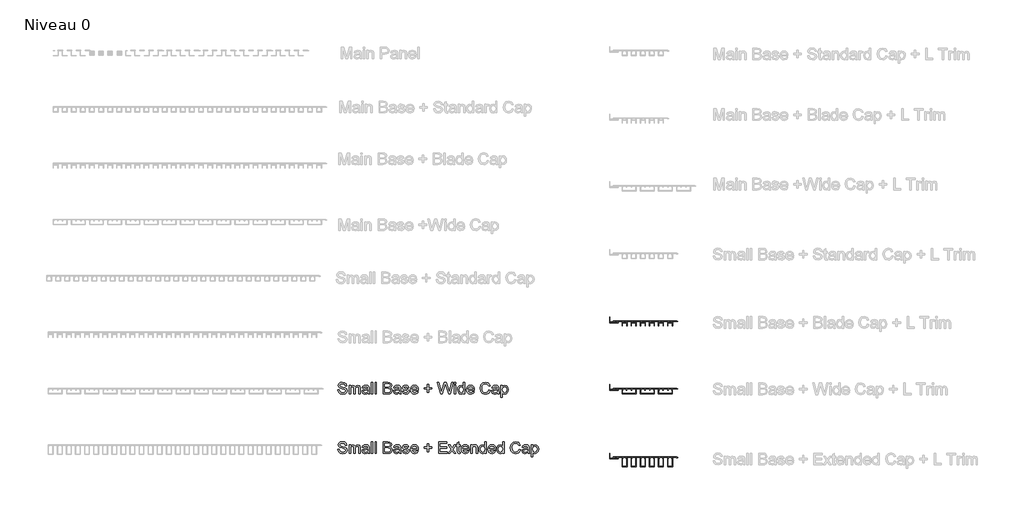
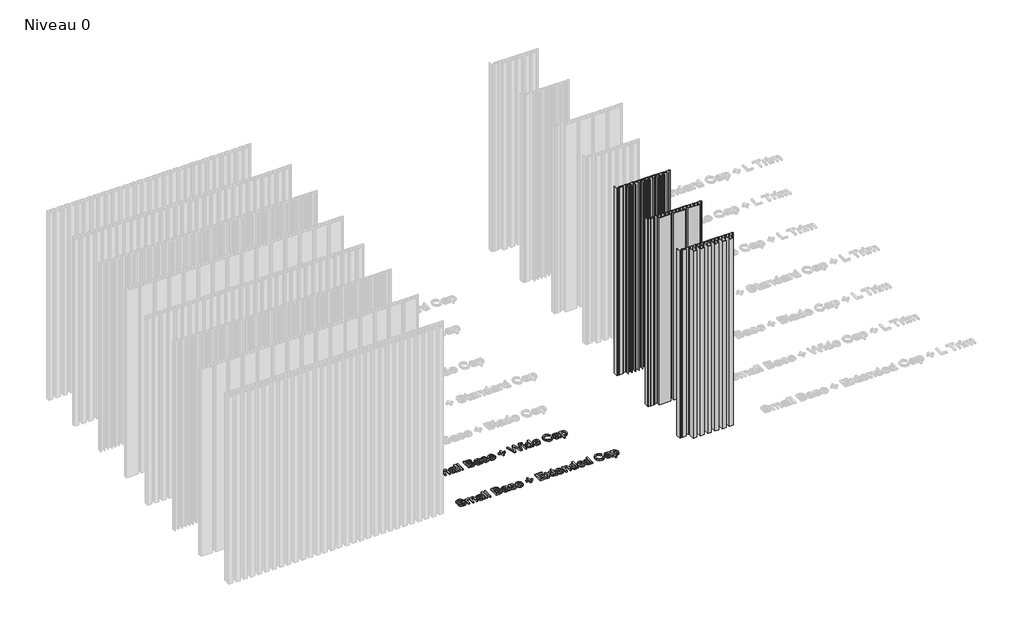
# One storey, part 5 of 25: 5 proxies.
"""IFC4 building model written with IfcOpenShell, lengths in millimetres."""

from ifc_helpers import new_model, si_unit, origin, origin_with_axes, place, context, project, spatial, polyline, outline, extrude, transform, mapped, element, save
from components import generic_models_1b919621, generic_models_7a0f7bea, generic_models_a2dd4bea

model = new_model("IFC4")

# Units and contexts
model_context = context("Model", 3, world=origin())
ifc_project = project(units=[si_unit("LENGTHUNIT", "METRE", prefix="MILLI")], contexts=[model_context])

# Site, building, storey
site = spatial("IfcSite", under=ifc_project)
building = spatial("IfcBuilding", under=site)
storey = spatial("IfcBuildingStorey", under=building, Name="Niveau 0", Elevation=0.0)

# Proxies
placement = place(None, origin())
generic_models_shape = generic_models_1b919621(model_context)
element("IfcBuildingElementProxy", 1, Name="A_GEN_LINE_Small Base_Extended Cap_LTrim : A_GEN_LINE_Small Base_Extended Cap_LTrim", ObjectType="A_GEN_LINE_Small Base_Extended Cap_LTrim : A_GEN_LINE_Small Base_Extended Cap_LTrim", at=placement, inside=storey, context=model_context, shape_type="MappedRepresentation", body=[
    mapped(generic_models_shape, transform((-23.2337478, 2105.9739218, 0.0), x_axis=(1.0, 0.0, 0.0), y_axis=(0.0, 1.0, 0.0), z_axis=(0.0, 0.0, 1.0))),
])
generic_models_2_shape = generic_models_7a0f7bea(model_context)
element("IfcBuildingElementProxy", 2, Name="A_GEN_LINE_Small Base_Blade Cap_LTrim : A_GEN_LINE_Small Base_Blade Cap_LTrim", ObjectType="A_GEN_LINE_Small Base_Blade Cap_LTrim : A_GEN_LINE_Small Base_Blade Cap_LTrim", at=placement, inside=storey, context=model_context, shape_type="MappedRepresentation", body=[
    mapped(generic_models_2_shape, transform((-23.2337478, 2931.5777825, 0.0), x_axis=(1.0, 0.0, 0.0), y_axis=(0.0, 1.0, 0.0), z_axis=(0.0, 0.0, 1.0))),
])
generic_models_3_shape = generic_models_a2dd4bea(model_context)
element("IfcBuildingElementProxy", 3, Name="A_GEN_LINE_Small Base_Wide Cap_LTrim : A_GEN_LINE_Small Base_Wide Cap_LTrim", ObjectType="A_GEN_LINE_Small Base_Wide Cap_LTrim : A_GEN_LINE_Small Base_Wide Cap_LTrim", at=placement, inside=storey, context=model_context, shape_type="MappedRepresentation", body=[
    mapped(generic_models_3_shape, transform((-23.2337478, 2521.8258521, 0.0), x_axis=(1.0, 0.0, 0.0), y_axis=(0.0, 1.0, 0.0), z_axis=(0.0, 0.0, 1.0))),
])
element("IfcBuildingElementProxy", 4, Name="70mm Arial", ObjectType="70mm Arial", at=placement, inside=storey, context=model_context, shape_type="SweptSolid", body=[
    extrude(outline(polyline([(-1688.9882989, 2512.3459427), (-1680.1983718, 2512.3459427), (-1677.3656804, 2503.5474317), (-1670.4470464, 2497.9850559), (-1659.9060009, 2495.8648293), (-1650.7212138, 2497.4700211), (-1644.7897297, 2501.8821525), (-1642.8411814, 2507.7793009), (-1644.3004467, 2513.2644214), (-1650.2748503, 2517.2559411), (-1663.0734649, 2520.6122512), (-1676.8506456, 2524.9471273), (-1684.327234, 2531.4880692), (-1686.7908171, 2540.2264929), (-1683.7435279, 2550.1752483), (-1674.8420099, 2557.1968893), (-1661.8116297, 2559.5918011), (-1647.9056902, 2557.0852984), (-1638.635064, 2549.7203009), (-1635.1499952, 2538.7157241), (-1643.9399223, 2538.7157241), (-1648.918592, 2547.7460009), (-1661.4682731, 2550.801874), (-1674.0522899, 2547.7803365), (-1678.00089, 2540.4840103), (-1675.2025343, 2534.3894319), (-1660.8502314, 2529.4794335), (-1645.2961806, 2525.0673021), (-1636.7895226, 2517.9426542), (-1634.0512543, 2508.0024826), (-1637.2015505, 2497.4871889), (-1646.2661628, 2489.8131705), (-1659.5626444, 2487.0749022), (-1675.2626217, 2490.0277684), (-1685.1942093, 2498.9207025), (-1688.9882989, 2512.3459427)])), origin_with_axes(), (0.0, 0.0, 1.0), 10.0),
    extrude(outline(polyline([(-1621.9651045, 2488.1736431), (-1621.9651045, 2539.814465), (-1613.1751774, 2539.814465), (-1613.1751774, 2531.3163909), (-1607.1321024, 2538.2779446), (-1598.5310214, 2540.9132059), (-1589.7239264, 2538.2264411), (-1584.8825994, 2530.6983492), (-1578.0240527, 2538.3594917), (-1569.3628843, 2540.9132059), (-1557.8690245, 2536.6641689), (-1553.8431692, 2523.5737012), (-1553.8431692, 2488.1736431), (-1562.6330963, 2488.1736431), (-1562.6330963, 2519.7967794), (-1563.4485681, 2527.1360252), (-1566.4014342, 2530.7498527), (-1571.4230234, 2532.1232788), (-1580.0670241, 2528.6038744), (-1583.5091733, 2517.3246124), (-1583.5091733, 2488.1736431), (-1592.2991004, 2488.1736431), (-1592.2991004, 2520.7753455), (-1594.3334878, 2529.2905874), (-1601.0031884, 2532.1232788), (-1607.5097946, 2530.2348179), (-1611.8360869, 2524.7067778), (-1613.1751774, 2514.2172358), (-1613.1751774, 2488.1736431), (-1621.9651045, 2488.1736431)])), origin_with_axes(), (0.0, 0.0, 1.0), 10.0),
    extrude(outline(polyline([(-1507.6960517, 2494.7660885), (-1516.2198775, 2488.8088527), (-1525.6364303, 2487.0749022), (-1538.4007093, 2491.246684), (-1542.8557602, 2501.9079043), (-1541.1733133, 2508.860874), (-1536.7525979, 2513.9082149), (-1530.5979322, 2516.7924098), (-1522.9925851, 2518.1143324), (-1507.7475552, 2521.1358699), (-1507.6960517, 2523.0930021), (-1510.1167152, 2529.5824405), (-1519.833705, 2532.1232788), (-1528.7266391, 2530.4322479), (-1532.9670922, 2524.4320925), (-1541.7570194, 2525.5308334), (-1537.9543458, 2534.1147467), (-1530.2974952, 2539.1449198), (-1518.7006284, 2540.9132059), (-1508.0479921, 2539.3509337), (-1502.030669, 2535.4280854), (-1499.3353202, 2529.4622657), (-1498.9061246, 2521.7710794), (-1498.9061246, 2510.835174), (-1498.4597611, 2495.5643924), (-1496.7086428, 2488.1736431), (-1505.4985699, 2488.1736431), (-1507.6960517, 2494.7660885)]), holes=[polyline([(-1507.6960517, 2512.3459427), (-1521.8766763, 2509.650594), (-1529.4391039, 2508.2256644), (-1532.8640853, 2505.9080078), (-1534.0658331, 2502.525946), (-1531.4477396, 2497.7704581), (-1523.7651372, 2495.8648293), (-1514.8722031, 2497.9678881), (-1509.1381491, 2503.0581486), (-1507.7475552, 2509.8566079), (-1507.6960517, 2512.3459427)])]), origin_with_axes(), (0.0, 0.0, 1.0), 10.0),
    extrude(outline(polyline([(-1486.8199747, 2488.1736431), (-1486.8199747, 2558.4930602), (-1478.0300476, 2558.4930602), (-1478.0300476, 2488.1736431), (-1486.8199747, 2488.1736431)])), origin_with_axes(), (0.0, 0.0, 1.0), 10.0),
    extrude(outline(polyline([(-1464.8451569, 2488.1736431), (-1464.8451569, 2558.4930602), (-1456.0552298, 2558.4930602), (-1456.0552298, 2488.1736431), (-1464.8451569, 2488.1736431)])), origin_with_axes(), (0.0, 0.0, 1.0), 10.0),
    extrude(outline(polyline([(-1414.3030759, 2488.1736431), (-1414.3030759, 2558.4930602), (-1387.4697631, 2558.4930602), (-1374.327792, 2556.4243371), (-1366.5679344, 2550.0636574), (-1363.7609948, 2541.0677164), (-1366.1215709, 2532.8529114), (-1373.2548028, 2526.6295743), (-1364.5936344, 2520.0714646), (-1361.563513, 2509.1355592), (-1363.6322361, 2499.6846707), (-1368.7568323, 2492.9548828), (-1376.405099, 2489.3839749), (-1387.675777, 2488.1736431), (-1414.3030759, 2488.1736431)]), holes=[polyline([(-1405.5131487, 2496.9635702), (-1387.486931, 2496.9635702), (-1380.9631569, 2497.3069268), (-1375.4437007, 2499.2211394), (-1371.7869537, 2503.1268199), (-1370.3534402, 2509.0497201), (-1372.0358872, 2515.882515), (-1377.4866721, 2519.9598738), (-1388.3453223, 2521.1358699), (-1405.5131487, 2521.1358699), (-1405.5131487, 2496.9635702)]), polyline([(-1405.5131487, 2529.925797), (-1389.461231, 2529.925797), (-1380.0875978, 2530.6811814), (-1374.4479668, 2533.9344845), (-1372.5509219, 2539.6599546), (-1374.3192081, 2545.3940086), (-1379.3837169, 2548.7846544), (-1390.6801467, 2549.7031331), (-1405.5131487, 2549.7031331), (-1405.5131487, 2529.925797)])]), origin_with_axes(), (0.0, 0.0, 1.0), 10.0),
    extrude(outline(polyline([(-1317.6138773, 2494.7660885), (-1326.1377032, 2488.8088527), (-1335.554256, 2487.0749022), (-1348.3185349, 2491.246684), (-1352.7735859, 2501.9079043), (-1351.0911389, 2508.860874), (-1346.6704236, 2513.9082149), (-1340.5157578, 2516.7924098), (-1332.9104107, 2518.1143324), (-1317.6653808, 2521.1358699), (-1317.6138773, 2523.0930021), (-1320.0345409, 2529.5824405), (-1329.7515306, 2532.1232788), (-1338.6444647, 2530.4322479), (-1342.8849179, 2524.4320925), (-1351.674845, 2525.5308334), (-1347.8721714, 2534.1147467), (-1340.2153208, 2539.1449198), (-1328.6184541, 2540.9132059), (-1317.9658178, 2539.3509337), (-1311.9484946, 2535.4280854), (-1309.2531459, 2529.4622657), (-1308.8239502, 2521.7710794), (-1308.8239502, 2510.835174), (-1308.3775867, 2495.5643924), (-1306.6264684, 2488.1736431), (-1315.4163956, 2488.1736431), (-1317.6138773, 2494.7660885)]), holes=[polyline([(-1317.6138773, 2512.3459427), (-1331.794502, 2509.650594), (-1339.3569295, 2508.2256644), (-1342.7819109, 2505.9080078), (-1343.9836587, 2502.525946), (-1341.3655652, 2497.7704581), (-1333.6829629, 2495.8648293), (-1324.7900288, 2497.9678881), (-1319.0559748, 2503.0581486), (-1317.6653808, 2509.8566079), (-1317.6138773, 2512.3459427)])]), origin_with_axes(), (0.0, 0.0, 1.0), 10.0),
    extrude(outline(polyline([(-1300.0340231, 2503.5560156), (-1291.2440959, 2504.6547565), (-1287.1753211, 2498.1309824), (-1277.8531913, 2495.8648293), (-1268.8915859, 2497.9421363), (-1265.9730554, 2502.8177991), (-1268.9087537, 2506.7663991), (-1277.9561983, 2509.2729018), (-1291.1925924, 2513.5734423), (-1296.969566, 2518.5950316), (-1298.9352822, 2525.6853439), (-1297.3558421, 2532.2348697), (-1293.0467177, 2537.2392911), (-1287.4585902, 2539.8402168), (-1279.8961626, 2540.9132059), (-1269.2006068, 2539.1878394), (-1262.4021475, 2534.5181906), (-1259.38061, 2526.6295743), (-1268.1705372, 2525.5308334), (-1271.4753438, 2530.3807444), (-1279.2094496, 2532.1232788), (-1287.6216845, 2530.4579996), (-1290.145355, 2526.5780709), (-1289.0981176, 2524.0200647), (-1285.8190628, 2522.0801003), (-1278.2480513, 2520.2088072), (-1265.3464297, 2516.0713611), (-1259.3548583, 2511.3845445), (-1257.1831283, 2503.7448617), (-1259.7325505, 2495.3326267), (-1267.0889641, 2489.2294644), (-1277.9733661, 2487.0749022), (-1293.3042351, 2491.2295162), (-1300.0340231, 2503.5560156)])), origin_with_axes(), (0.0, 0.0, 1.0), 10.0),
    extrude(outline(polyline([(-1211.1390177, 2503.5560156), (-1202.5207689, 2502.4572747), (-1210.5810634, 2491.1093414), (-1225.5943276, 2487.0749022), (-1235.9078993, 2488.8152906), (-1243.8437271, 2494.0364558), (-1248.903944, 2502.3993333), (-1250.5906829, 2513.5648584), (-1248.8867761, 2525.1059297), (-1243.7750558, 2533.7370545), (-1235.946527, 2539.1191681), (-1226.0921946, 2540.9132059), (-1216.5447371, 2539.12346), (-1208.9157842, 2533.7542223), (-1203.9135088, 2525.1402654), (-1202.2460836, 2513.6163619), (-1202.2975871, 2511.2472018), (-1241.8007558, 2511.2472018), (-1236.7448309, 2499.8305973), (-1225.4226493, 2495.8648293), (-1216.8044005, 2497.7017868), (-1211.1390177, 2503.5560156)]), holes=[polyline([(-1241.8007558, 2520.037129), (-1211.0360108, 2520.037129), (-1214.5554152, 2528.0030004), (-1226.1265302, 2532.1232788), (-1236.9508448, 2528.83564), (-1241.8007558, 2520.037129)])]), origin_with_axes(), (0.0, 0.0, 1.0), 10.0),
    extrude(outline(polyline([(-1148.4077799, 2499.161052), (-1148.4077799, 2517.8396472), (-1167.0863751, 2517.8396472), (-1167.0863751, 2526.6295743), (-1148.4077799, 2526.6295743), (-1148.4077799, 2545.3081695), (-1139.6178528, 2545.3081695), (-1139.6178528, 2526.6295743), (-1120.9392576, 2526.6295743), (-1120.9392576, 2517.8396472), (-1139.6178528, 2517.8396472), (-1139.6178528, 2499.161052), (-1148.4077799, 2499.161052)])), origin_with_axes(), (0.0, 0.0, 1.0), 10.0),
    extrude(outline(polyline([(-1067.7018278, 2488.1736431), (-1086.87829, 2558.4930602), (-1077.8136776, 2558.4930602), (-1066.6889261, 2512.2772714), (-1063.2553608, 2498.0108077), (-1059.5814459, 2510.6291601), (-1045.6411708, 2558.4930602), (-1032.5764549, 2558.4930602), (-1022.4474373, 2523.796883), (-1014.9107615, 2498.0108077), (-1011.5802032, 2511.8652436), (-1000.3524447, 2558.4930602), (-991.2878323, 2558.4930602), (-1010.4814623, 2488.1736431), (-1019.8722634, 2488.1736431), (-1036.7310689, 2542.4239747), (-1039.0830611, 2549.9949861), (-1041.7269064, 2540.8788703), (-1057.0921111, 2488.1736431), (-1067.7018278, 2488.1736431)])), origin_with_axes(), (0.0, 0.0, 1.0), 10.0),
    extrude(outline(polyline([(-983.5966461, 2549.7031331), (-983.5966461, 2558.4930602), (-974.8067189, 2558.4930602), (-974.8067189, 2549.7031331), (-983.5966461, 2549.7031331)])), origin_with_axes(), (0.0, 0.0, 1.0), 10.0),
    extrude(outline(polyline([(-983.5966461, 2488.1736431), (-983.5966461, 2539.814465), (-974.8067189, 2539.814465), (-974.8067189, 2488.1736431), (-983.5966461, 2488.1736431)])), origin_with_axes(), (0.0, 0.0, 1.0), 10.0),
    extrude(outline(polyline([(-929.7583424, 2488.1736431), (-929.7583424, 2496.4657033), (-935.5739436, 2489.4226025), (-943.6127783, 2487.0749022), (-954.4971803, 2490.4741318), (-962.1883665, 2499.959356), (-964.9180509, 2513.9425506), (-962.4029643, 2527.9343291), (-954.8662885, 2537.5654798), (-943.647114, 2540.9132059), (-935.5438999, 2538.5182941), (-929.7583424, 2532.2949571), (-929.7583424, 2558.4930602), (-920.9684152, 2558.4930602), (-920.9684152, 2488.1736431), (-929.7583424, 2488.1736431)]), holes=[polyline([(-956.1281238, 2513.9768862), (-952.1623559, 2500.3713838), (-942.8058905, 2495.8648293), (-933.5610159, 2500.1653699), (-929.7583424, 2513.307341), (-933.6296872, 2527.5738048), (-943.1664148, 2532.1232788), (-952.4198733, 2527.754067), (-956.1281238, 2513.9768862)])]), origin_with_axes(), (0.0, 0.0, 1.0), 10.0),
    extrude(outline(polyline([(-871.628082, 2503.5560156), (-863.0098332, 2502.4572747), (-871.0701277, 2491.1093414), (-886.0833919, 2487.0749022), (-896.3969636, 2488.8152906), (-904.3327914, 2494.0364558), (-909.3930083, 2502.3993333), (-911.0797472, 2513.5648584), (-909.3758404, 2525.1059297), (-904.2641201, 2533.7370545), (-896.4355912, 2539.1191681), (-886.5812589, 2540.9132059), (-877.0338014, 2539.12346), (-869.4048485, 2533.7542223), (-864.4025731, 2525.1402654), (-862.7351479, 2513.6163619), (-862.7866514, 2511.2472018), (-902.2898201, 2511.2472018), (-897.2338952, 2499.8305973), (-885.9117136, 2495.8648293), (-877.2934648, 2497.7017868), (-871.628082, 2503.5560156)]), holes=[polyline([(-902.2898201, 2520.037129), (-871.5250751, 2520.037129), (-875.0444795, 2528.0030004), (-886.6155945, 2532.1232788), (-897.4399091, 2528.83564), (-902.2898201, 2520.037129)])]), origin_with_axes(), (0.0, 0.0, 1.0), 10.0),
    extrude(outline(polyline([(-775.9346175, 2513.1699984), (-767.1446903, 2510.9038453), (-771.2005893, 2500.6610909), (-777.565561, 2493.1780645), (-785.9262924, 2488.6006928), (-795.9694709, 2487.0749022), (-814.26179, 2491.6930475), (-824.9916815, 2505.0667843), (-828.6741803, 2523.8655543), (-824.5109824, 2542.9733451), (-812.673766, 2555.3599319), (-795.7806248, 2559.5918011), (-778.1750188, 2554.1152645), (-768.2434312, 2538.6985563), (-777.0333583, 2536.6040815), (-784.2438454, 2547.4112282), (-796.1239813, 2550.801874), (-809.8754103, 2547.04212), (-817.6438518, 2536.947438), (-819.8842531, 2523.8827221), (-817.231824, 2508.7406992), (-808.9740994, 2499.066629), (-796.8450301, 2495.8648293), (-783.394038, 2500.2254573), (-775.9346175, 2513.1699984)])), origin_with_axes(), (0.0, 0.0, 1.0), 10.0),
    extrude(outline(polyline([(-723.1950546, 2494.7660885), (-731.7188805, 2488.8088527), (-741.1354333, 2487.0749022), (-753.8997122, 2491.246684), (-758.3547632, 2501.9079043), (-756.6723162, 2508.860874), (-752.2516009, 2513.9082149), (-746.0969351, 2516.7924098), (-738.491588, 2518.1143324), (-723.2465581, 2521.1358699), (-723.1950546, 2523.0930021), (-725.6157182, 2529.5824405), (-735.3327079, 2532.1232788), (-744.225642, 2530.4322479), (-748.4660951, 2524.4320925), (-757.2560223, 2525.5308334), (-753.4533487, 2534.1147467), (-745.7964981, 2539.1449198), (-734.1996314, 2540.9132059), (-723.5469951, 2539.3509337), (-717.5296719, 2535.4280854), (-714.8343231, 2529.4622657), (-714.4051275, 2521.7710794), (-714.4051275, 2510.835174), (-713.958764, 2495.5643924), (-712.2076457, 2488.1736431), (-720.9975728, 2488.1736431), (-723.1950546, 2494.7660885)]), holes=[polyline([(-723.1950546, 2512.3459427), (-737.3756793, 2509.650594), (-744.9381068, 2508.2256644), (-748.3630882, 2505.9080078), (-749.564836, 2502.525946), (-746.9467425, 2497.7704581), (-739.2641402, 2495.8648293), (-730.3712061, 2497.9678881), (-724.637152, 2503.0581486), (-723.2465581, 2509.8566079), (-723.1950546, 2512.3459427)])]), origin_with_axes(), (0.0, 0.0, 1.0), 10.0),
    extrude(outline(polyline([(-702.3189777, 2468.396307), (-702.3189777, 2539.814465), (-693.5290505, 2539.814465), (-693.5290505, 2531.1962162), (-687.45164, 2538.4839585), (-679.2454189, 2540.9132059), (-668.1034996, 2537.5139763), (-660.8243412, 2527.9343291), (-658.369342, 2514.3889141), (-661.1419459, 2500.148202), (-669.1936566, 2490.4483801), (-680.3098242, 2487.0749022), (-687.9580909, 2489.3324714), (-693.5290505, 2495.0407737), (-693.5290505, 2468.396307), (-702.3189777, 2468.396307)]), holes=[polyline([(-693.5290505, 2513.5820262), (-689.726377, 2500.1911216), (-680.4986703, 2495.8648293), (-671.0821175, 2500.345632), (-667.1592691, 2514.2344036), (-670.9876944, 2527.6596439), (-680.1381459, 2532.1232788), (-689.4688596, 2527.3763748), (-693.5290505, 2513.5820262)])]), origin_with_axes(), (0.0, 0.0, 1.0), 10.0),
])
element("IfcBuildingElementProxy", 5, Name="70mm Arial", ObjectType="70mm Arial", at=placement, inside=storey, context=model_context, shape_type="SweptSolid", body=[
    extrude(outline(polyline([(-1688.9882989, 2152.3459427), (-1680.1983718, 2152.3459427), (-1677.3656804, 2143.5474317), (-1670.4470464, 2137.9850559), (-1659.9060009, 2135.8648293), (-1650.7212138, 2137.4700211), (-1644.7897297, 2141.8821525), (-1642.8411814, 2147.7793009), (-1644.3004467, 2153.2644214), (-1650.2748503, 2157.2559411), (-1663.0734649, 2160.6122512), (-1676.8506456, 2164.9471273), (-1684.327234, 2171.4880692), (-1686.7908171, 2180.2264929), (-1683.7435279, 2190.1752483), (-1674.8420099, 2197.1968893), (-1661.8116297, 2199.5918011), (-1647.9056902, 2197.0852984), (-1638.635064, 2189.7203009), (-1635.1499952, 2178.7157241), (-1643.9399223, 2178.7157241), (-1648.918592, 2187.7460009), (-1661.4682731, 2190.801874), (-1674.0522899, 2187.7803365), (-1678.00089, 2180.4840103), (-1675.2025343, 2174.3894319), (-1660.8502314, 2169.4794335), (-1645.2961806, 2165.0673021), (-1636.7895226, 2157.9426542), (-1634.0512543, 2148.0024826), (-1637.2015505, 2137.4871889), (-1646.2661628, 2129.8131705), (-1659.5626444, 2127.0749022), (-1675.2626217, 2130.0277684), (-1685.1942093, 2138.9207025), (-1688.9882989, 2152.3459427)])), origin_with_axes(), (0.0, 0.0, 1.0), 10.0),
    extrude(outline(polyline([(-1621.9651045, 2128.1736431), (-1621.9651045, 2179.814465), (-1613.1751774, 2179.814465), (-1613.1751774, 2171.3163909), (-1607.1321024, 2178.2779446), (-1598.5310214, 2180.9132059), (-1589.7239264, 2178.2264411), (-1584.8825994, 2170.6983492), (-1578.0240527, 2178.3594917), (-1569.3628843, 2180.9132059), (-1557.8690245, 2176.6641689), (-1553.8431692, 2163.5737012), (-1553.8431692, 2128.1736431), (-1562.6330963, 2128.1736431), (-1562.6330963, 2159.7967794), (-1563.4485681, 2167.1360252), (-1566.4014342, 2170.7498527), (-1571.4230234, 2172.1232788), (-1580.0670241, 2168.6038744), (-1583.5091733, 2157.3246124), (-1583.5091733, 2128.1736431), (-1592.2991004, 2128.1736431), (-1592.2991004, 2160.7753455), (-1594.3334878, 2169.2905874), (-1601.0031884, 2172.1232788), (-1607.5097946, 2170.2348179), (-1611.8360869, 2164.7067778), (-1613.1751774, 2154.2172358), (-1613.1751774, 2128.1736431), (-1621.9651045, 2128.1736431)])), origin_with_axes(), (0.0, 0.0, 1.0), 10.0),
    extrude(outline(polyline([(-1507.6960517, 2134.7660885), (-1516.2198775, 2128.8088527), (-1525.6364303, 2127.0749022), (-1538.4007093, 2131.246684), (-1542.8557602, 2141.9079043), (-1541.1733133, 2148.860874), (-1536.7525979, 2153.9082149), (-1530.5979322, 2156.7924098), (-1522.9925851, 2158.1143324), (-1507.7475552, 2161.1358699), (-1507.6960517, 2163.0930021), (-1510.1167152, 2169.5824405), (-1519.833705, 2172.1232788), (-1528.7266391, 2170.4322479), (-1532.9670922, 2164.4320925), (-1541.7570194, 2165.5308334), (-1537.9543458, 2174.1147467), (-1530.2974952, 2179.1449198), (-1518.7006284, 2180.9132059), (-1508.0479921, 2179.3509337), (-1502.030669, 2175.4280854), (-1499.3353202, 2169.4622657), (-1498.9061246, 2161.7710794), (-1498.9061246, 2150.835174), (-1498.4597611, 2135.5643924), (-1496.7086428, 2128.1736431), (-1505.4985699, 2128.1736431), (-1507.6960517, 2134.7660885)]), holes=[polyline([(-1507.6960517, 2152.3459427), (-1521.8766763, 2149.650594), (-1529.4391039, 2148.2256644), (-1532.8640853, 2145.9080078), (-1534.0658331, 2142.525946), (-1531.4477396, 2137.7704581), (-1523.7651372, 2135.8648293), (-1514.8722031, 2137.9678881), (-1509.1381491, 2143.0581486), (-1507.7475552, 2149.8566079), (-1507.6960517, 2152.3459427)])]), origin_with_axes(), (0.0, 0.0, 1.0), 10.0),
    extrude(outline(polyline([(-1486.8199747, 2128.1736431), (-1486.8199747, 2198.4930602), (-1478.0300476, 2198.4930602), (-1478.0300476, 2128.1736431), (-1486.8199747, 2128.1736431)])), origin_with_axes(), (0.0, 0.0, 1.0), 10.0),
    extrude(outline(polyline([(-1464.8451569, 2128.1736431), (-1464.8451569, 2198.4930602), (-1456.0552298, 2198.4930602), (-1456.0552298, 2128.1736431), (-1464.8451569, 2128.1736431)])), origin_with_axes(), (0.0, 0.0, 1.0), 10.0),
    extrude(outline(polyline([(-1414.3030759, 2128.1736431), (-1414.3030759, 2198.4930602), (-1387.4697631, 2198.4930602), (-1374.327792, 2196.4243371), (-1366.5679344, 2190.0636574), (-1363.7609948, 2181.0677164), (-1366.1215709, 2172.8529114), (-1373.2548028, 2166.6295743), (-1364.5936344, 2160.0714646), (-1361.563513, 2149.1355592), (-1363.6322361, 2139.6846707), (-1368.7568323, 2132.9548828), (-1376.405099, 2129.3839749), (-1387.675777, 2128.1736431), (-1414.3030759, 2128.1736431)]), holes=[polyline([(-1405.5131487, 2136.9635702), (-1387.486931, 2136.9635702), (-1380.9631569, 2137.3069268), (-1375.4437007, 2139.2211394), (-1371.7869537, 2143.1268199), (-1370.3534402, 2149.0497201), (-1372.0358872, 2155.882515), (-1377.4866721, 2159.9598738), (-1388.3453223, 2161.1358699), (-1405.5131487, 2161.1358699), (-1405.5131487, 2136.9635702)]), polyline([(-1405.5131487, 2169.925797), (-1389.461231, 2169.925797), (-1380.0875978, 2170.6811814), (-1374.4479668, 2173.9344845), (-1372.5509219, 2179.6599546), (-1374.3192081, 2185.3940086), (-1379.3837169, 2188.7846544), (-1390.6801467, 2189.7031331), (-1405.5131487, 2189.7031331), (-1405.5131487, 2169.925797)])]), origin_with_axes(), (0.0, 0.0, 1.0), 10.0),
    extrude(outline(polyline([(-1317.6138773, 2134.7660885), (-1326.1377032, 2128.8088527), (-1335.554256, 2127.0749022), (-1348.3185349, 2131.246684), (-1352.7735859, 2141.9079043), (-1351.0911389, 2148.860874), (-1346.6704236, 2153.9082149), (-1340.5157578, 2156.7924098), (-1332.9104107, 2158.1143324), (-1317.6653808, 2161.1358699), (-1317.6138773, 2163.0930021), (-1320.0345409, 2169.5824405), (-1329.7515306, 2172.1232788), (-1338.6444647, 2170.4322479), (-1342.8849179, 2164.4320925), (-1351.674845, 2165.5308334), (-1347.8721714, 2174.1147467), (-1340.2153208, 2179.1449198), (-1328.6184541, 2180.9132059), (-1317.9658178, 2179.3509337), (-1311.9484946, 2175.4280854), (-1309.2531459, 2169.4622657), (-1308.8239502, 2161.7710794), (-1308.8239502, 2150.835174), (-1308.3775867, 2135.5643924), (-1306.6264684, 2128.1736431), (-1315.4163956, 2128.1736431), (-1317.6138773, 2134.7660885)]), holes=[polyline([(-1317.6138773, 2152.3459427), (-1331.794502, 2149.650594), (-1339.3569295, 2148.2256644), (-1342.7819109, 2145.9080078), (-1343.9836587, 2142.525946), (-1341.3655652, 2137.7704581), (-1333.6829629, 2135.8648293), (-1324.7900288, 2137.9678881), (-1319.0559748, 2143.0581486), (-1317.6653808, 2149.8566079), (-1317.6138773, 2152.3459427)])]), origin_with_axes(), (0.0, 0.0, 1.0), 10.0),
    extrude(outline(polyline([(-1300.0340231, 2143.5560156), (-1291.2440959, 2144.6547565), (-1287.1753211, 2138.1309824), (-1277.8531913, 2135.8648293), (-1268.8915859, 2137.9421363), (-1265.9730554, 2142.8177991), (-1268.9087537, 2146.7663991), (-1277.9561983, 2149.2729018), (-1291.1925924, 2153.5734423), (-1296.969566, 2158.5950316), (-1298.9352822, 2165.6853439), (-1297.3558421, 2172.2348697), (-1293.0467177, 2177.2392911), (-1287.4585902, 2179.8402168), (-1279.8961626, 2180.9132059), (-1269.2006068, 2179.1878394), (-1262.4021475, 2174.5181906), (-1259.38061, 2166.6295743), (-1268.1705372, 2165.5308334), (-1271.4753438, 2170.3807444), (-1279.2094496, 2172.1232788), (-1287.6216845, 2170.4579996), (-1290.145355, 2166.5780709), (-1289.0981176, 2164.0200647), (-1285.8190628, 2162.0801003), (-1278.2480513, 2160.2088072), (-1265.3464297, 2156.0713611), (-1259.3548583, 2151.3845445), (-1257.1831283, 2143.7448617), (-1259.7325505, 2135.3326267), (-1267.0889641, 2129.2294644), (-1277.9733661, 2127.0749022), (-1293.3042351, 2131.2295162), (-1300.0340231, 2143.5560156)])), origin_with_axes(), (0.0, 0.0, 1.0), 10.0),
    extrude(outline(polyline([(-1211.1390177, 2143.5560156), (-1202.5207689, 2142.4572747), (-1210.5810634, 2131.1093414), (-1225.5943276, 2127.0749022), (-1235.9078993, 2128.8152906), (-1243.8437271, 2134.0364558), (-1248.903944, 2142.3993333), (-1250.5906829, 2153.5648584), (-1248.8867761, 2165.1059297), (-1243.7750558, 2173.7370545), (-1235.946527, 2179.1191681), (-1226.0921946, 2180.9132059), (-1216.5447371, 2179.12346), (-1208.9157842, 2173.7542223), (-1203.9135088, 2165.1402654), (-1202.2460836, 2153.6163619), (-1202.2975871, 2151.2472018), (-1241.8007558, 2151.2472018), (-1236.7448309, 2139.8305973), (-1225.4226493, 2135.8648293), (-1216.8044005, 2137.7017868), (-1211.1390177, 2143.5560156)]), holes=[polyline([(-1241.8007558, 2160.037129), (-1211.0360108, 2160.037129), (-1214.5554152, 2168.0030004), (-1226.1265302, 2172.1232788), (-1236.9508448, 2168.83564), (-1241.8007558, 2160.037129)])]), origin_with_axes(), (0.0, 0.0, 1.0), 10.0),
    extrude(outline(polyline([(-1148.4077799, 2139.161052), (-1148.4077799, 2157.8396472), (-1167.0863751, 2157.8396472), (-1167.0863751, 2166.6295743), (-1148.4077799, 2166.6295743), (-1148.4077799, 2185.3081695), (-1139.6178528, 2185.3081695), (-1139.6178528, 2166.6295743), (-1120.9392576, 2166.6295743), (-1120.9392576, 2157.8396472), (-1139.6178528, 2157.8396472), (-1139.6178528, 2139.161052), (-1148.4077799, 2139.161052)])), origin_with_axes(), (0.0, 0.0, 1.0), 10.0),
    extrude(outline(polyline([(-1080.2858446, 2128.1736431), (-1080.2858446, 2198.4930602), (-1029.7437636, 2198.4930602), (-1029.7437636, 2189.7031331), (-1071.4959175, 2189.7031331), (-1071.4959175, 2168.8270561), (-1031.9412453, 2168.8270561), (-1031.9412453, 2160.037129), (-1071.4959175, 2160.037129), (-1071.4959175, 2136.9635702), (-1028.6450227, 2136.9635702), (-1028.6450227, 2128.1736431), (-1080.2858446, 2128.1736431)])), origin_with_axes(), (0.0, 0.0, 1.0), 10.0),
    extrude(outline(polyline([(-1022.0525773, 2128.1736431), (-1003.2709752, 2154.1313967), (-1020.9538364, 2179.814465), (-1010.3784553, 2179.814465), (-1001.8460456, 2167.45363), (-997.8631099, 2161.616569), (-994.4123767, 2166.3892248), (-984.695387, 2179.814465), (-974.1200059, 2179.814465), (-992.6955941, 2154.1313967), (-974.8067189, 2128.1736431), (-985.3821, 2128.1736431), (-996.1463272, 2143.7791973), (-998.1206273, 2146.6290565), (-1011.4771962, 2128.1736431), (-1022.0525773, 2128.1736431)])), origin_with_axes(), (0.0, 0.0, 1.0), 10.0),
    extrude(outline(polyline([(-948.4369375, 2135.504305), (-947.3381966, 2127.9161257), (-953.9134742, 2127.0749022), (-961.2784717, 2128.5341675), (-964.9523866, 2132.3625928), (-966.0167918, 2142.3370999), (-966.0167918, 2171.0245379), (-972.6092372, 2171.0245379), (-972.6092372, 2179.814465), (-966.0167918, 2179.814465), (-966.0167918, 2192.3641462), (-957.2268647, 2197.5316619), (-957.2268647, 2179.814465), (-948.4369375, 2179.814465), (-948.4369375, 2171.0245379), (-957.2268647, 2171.0245379), (-957.2268647, 2142.5946173), (-956.7633334, 2138.0623111), (-955.2611485, 2136.4571194), (-952.2653628, 2135.8648293), (-948.4369375, 2135.504305)])), origin_with_axes(), (0.0, 0.0, 1.0), 10.0),
    extrude(outline(polyline([(-903.4915679, 2143.5560156), (-894.873319, 2142.4572747), (-902.9336136, 2131.1093414), (-917.9468778, 2127.0749022), (-928.2604495, 2128.8152906), (-936.1962773, 2134.0364558), (-941.2564941, 2142.3993333), (-942.9432331, 2153.5648584), (-941.2393263, 2165.1059297), (-936.127606, 2173.7370545), (-928.2990771, 2179.1191681), (-918.4447447, 2180.9132059), (-908.8972873, 2179.12346), (-901.2683344, 2173.7542223), (-896.266059, 2165.1402654), (-894.5986338, 2153.6163619), (-894.6501373, 2151.2472018), (-934.1533059, 2151.2472018), (-929.097381, 2139.8305973), (-917.7751995, 2135.8648293), (-909.1569506, 2137.7017868), (-903.4915679, 2143.5560156)]), holes=[polyline([(-934.1533059, 2160.037129), (-903.388561, 2160.037129), (-906.9079654, 2168.0030004), (-918.4790804, 2172.1232788), (-929.303395, 2168.83564), (-934.1533059, 2160.037129)])]), origin_with_axes(), (0.0, 0.0, 1.0), 10.0),
    extrude(outline(polyline([(-885.8087067, 2128.1736431), (-885.8087067, 2179.814465), (-877.0187795, 2179.814465), (-877.0187795, 2172.6039779), (-870.2975755, 2178.8358989), (-861.1213723, 2180.9132059), (-852.8207282, 2179.2393429), (-847.1553454, 2174.8443793), (-844.5200841, 2168.3806926), (-844.0565528, 2159.8826185), (-844.0565528, 2128.1736431), (-852.8464799, 2128.1736431), (-852.8464799, 2158.6980385), (-853.8593817, 2166.4750639), (-857.4388735, 2170.5867583), (-863.4733645, 2172.1232788), (-873.0100921, 2168.6725457), (-877.0187795, 2155.5734941), (-877.0187795, 2128.1736431), (-885.8087067, 2128.1736431)])), origin_with_axes(), (0.0, 0.0, 1.0), 10.0),
    extrude(outline(polyline([(-800.1069171, 2128.1736431), (-800.1069171, 2136.4657033), (-805.9225183, 2129.4226025), (-813.961353, 2127.0749022), (-824.845755, 2130.4741318), (-832.5369412, 2139.959356), (-835.2666256, 2153.9425506), (-832.7515391, 2167.9343291), (-825.2148633, 2177.5654798), (-813.9956887, 2180.9132059), (-805.8924746, 2178.5182941), (-800.1069171, 2172.2949571), (-800.1069171, 2198.4930602), (-791.3169899, 2198.4930602), (-791.3169899, 2128.1736431), (-800.1069171, 2128.1736431)]), holes=[polyline([(-826.4766985, 2153.9768862), (-822.5109306, 2140.3713838), (-813.1544652, 2135.8648293), (-803.9095906, 2140.1653699), (-800.1069171, 2153.307341), (-803.9782619, 2167.5738048), (-813.5149895, 2172.1232788), (-822.768448, 2167.754067), (-826.4766985, 2153.9768862)])]), origin_with_axes(), (0.0, 0.0, 1.0), 10.0),
    extrude(outline(polyline([(-741.9766567, 2143.5560156), (-733.3584079, 2142.4572747), (-741.4187024, 2131.1093414), (-756.4319666, 2127.0749022), (-766.7455383, 2128.8152906), (-774.6813661, 2134.0364558), (-779.741583, 2142.3993333), (-781.4283219, 2153.5648584), (-779.7244151, 2165.1059297), (-774.6126948, 2173.7370545), (-766.784166, 2179.1191681), (-756.9298336, 2180.9132059), (-747.3823761, 2179.12346), (-739.7534232, 2173.7542223), (-734.7511478, 2165.1402654), (-733.0837227, 2153.6163619), (-733.1352261, 2151.2472018), (-772.6383948, 2151.2472018), (-767.5824699, 2139.8305973), (-756.2602883, 2135.8648293), (-747.6420395, 2137.7017868), (-741.9766567, 2143.5560156)]), holes=[polyline([(-772.6383948, 2160.037129), (-741.8736498, 2160.037129), (-745.3930542, 2168.0030004), (-756.9641692, 2172.1232788), (-767.7884838, 2168.83564), (-772.6383948, 2160.037129)])]), origin_with_axes(), (0.0, 0.0, 1.0), 10.0),
    extrude(outline(polyline([(-692.4303096, 2128.1736431), (-692.4303096, 2136.4657033), (-698.2459108, 2129.4226025), (-706.2847456, 2127.0749022), (-717.1691475, 2130.4741318), (-724.8603338, 2139.959356), (-727.5900182, 2153.9425506), (-725.0749316, 2167.9343291), (-717.5382558, 2177.5654798), (-706.3190812, 2180.9132059), (-698.2158671, 2178.5182941), (-692.4303096, 2172.2949571), (-692.4303096, 2198.4930602), (-683.6403825, 2198.4930602), (-683.6403825, 2128.1736431), (-692.4303096, 2128.1736431)]), holes=[polyline([(-718.8000911, 2153.9768862), (-714.8343231, 2140.3713838), (-705.4778577, 2135.8648293), (-696.2329832, 2140.1653699), (-692.4303096, 2153.307341), (-696.3016545, 2167.5738048), (-705.8383821, 2172.1232788), (-715.0918405, 2167.754067), (-718.8000911, 2153.9768862)])]), origin_with_axes(), (0.0, 0.0, 1.0), 10.0),
    extrude(outline(polyline([(-592.4448884, 2153.1699984), (-583.6549613, 2150.9038453), (-587.7108603, 2140.6610909), (-594.075832, 2133.1780645), (-602.4365634, 2128.6006928), (-612.4797419, 2127.0749022), (-630.772061, 2131.6930475), (-641.5019525, 2145.0667843), (-645.1844513, 2163.8655543), (-641.0212534, 2182.9733451), (-629.184037, 2195.3599319), (-612.2908958, 2199.5918011), (-594.6852898, 2194.1152645), (-584.7537022, 2178.6985563), (-593.5436293, 2176.6040815), (-600.7541164, 2187.4112282), (-612.6342523, 2190.801874), (-626.3856813, 2187.04212), (-634.1541228, 2176.947438), (-636.3945241, 2163.8827221), (-633.7420949, 2148.7406992), (-625.4843704, 2139.066629), (-613.355301, 2135.8648293), (-599.904309, 2140.2254573), (-592.4448884, 2153.1699984)])), origin_with_axes(), (0.0, 0.0, 1.0), 10.0),
    extrude(outline(polyline([(-539.7053256, 2134.7660885), (-548.2291514, 2128.8088527), (-557.6457042, 2127.0749022), (-570.4099832, 2131.246684), (-574.8650342, 2141.9079043), (-573.1825872, 2148.860874), (-568.7618719, 2153.9082149), (-562.6072061, 2156.7924098), (-555.001859, 2158.1143324), (-539.7568291, 2161.1358699), (-539.7053256, 2163.0930021), (-542.1259891, 2169.5824405), (-551.8429789, 2172.1232788), (-560.735913, 2170.4322479), (-564.9763661, 2164.4320925), (-573.7662933, 2165.5308334), (-569.9636197, 2174.1147467), (-562.3067691, 2179.1449198), (-550.7099024, 2180.9132059), (-540.0572661, 2179.3509337), (-534.0399429, 2175.4280854), (-531.3445941, 2169.4622657), (-530.9153985, 2161.7710794), (-530.9153985, 2150.835174), (-530.469035, 2135.5643924), (-528.7179167, 2128.1736431), (-537.5078438, 2128.1736431), (-539.7053256, 2134.7660885)]), holes=[polyline([(-539.7053256, 2152.3459427), (-553.8859503, 2149.650594), (-561.4483778, 2148.2256644), (-564.8733592, 2145.9080078), (-566.075107, 2142.525946), (-563.4570135, 2137.7704581), (-555.7744112, 2135.8648293), (-546.8814771, 2137.9678881), (-541.147423, 2143.0581486), (-539.7568291, 2149.8566079), (-539.7053256, 2152.3459427)])]), origin_with_axes(), (0.0, 0.0, 1.0), 10.0),
    extrude(outline(polyline([(-518.8292487, 2108.396307), (-518.8292487, 2179.814465), (-510.0393215, 2179.814465), (-510.0393215, 2171.1962162), (-503.961911, 2178.4839585), (-495.7556899, 2180.9132059), (-484.6137706, 2177.5139763), (-477.3346122, 2167.9343291), (-474.879613, 2154.3889141), (-477.6522169, 2140.148202), (-485.7039275, 2130.4483801), (-496.8200952, 2127.0749022), (-504.4683618, 2129.3324714), (-510.0393215, 2135.0407737), (-510.0393215, 2108.396307), (-518.8292487, 2108.396307)]), holes=[polyline([(-510.0393215, 2153.5820262), (-506.236648, 2140.1911216), (-497.0089413, 2135.8648293), (-487.5923885, 2140.345632), (-483.6695401, 2154.2344036), (-487.4979654, 2167.6596439), (-496.6484169, 2172.1232788), (-505.9791306, 2167.3763748), (-510.0393215, 2153.5820262)])]), origin_with_axes(), (0.0, 0.0, 1.0), 10.0),
])

save(model, "model.ifc")
